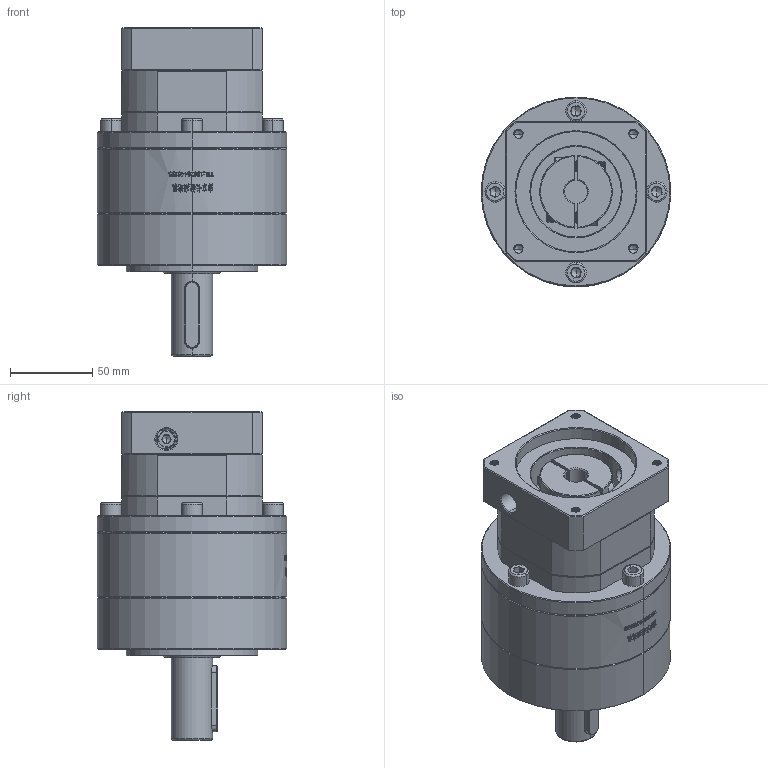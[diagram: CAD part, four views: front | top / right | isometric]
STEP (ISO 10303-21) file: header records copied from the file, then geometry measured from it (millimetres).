
FILE_DESCRIPTION (( 'STEP AP214' ), '1' );
FILE_NAME ('ZE120A-D25-L2-14-73-69.5X69.5-M6.step', '2023-03-13T06:48:57', ( '' ), ( '' ), 'SwSTEP 2.0', 'SolidWorks 2016', '' );
FILE_SCHEMA (( 'AUTOMOTIVE_DESIGN' ));
Length unit declared in the file: millimetre
Products named in the file (1): ZE120A-D25-L2-14-73-69.5X69.5-M6
Bounding box: 115 x 115 x 199 mm (x, y, z)
Volume: 1215811.9 mm3; surface area: 121743.2 mm2
Topology: 5 solids, 6 shells, 2021 faces, 5327 edges, 3397 vertices
Faces by surface type: plane 866, cylinder 500, bspline 333, cone 307, torus 15
Entity records: 116494 total; most frequent: CARTESIAN_POINT 48966, ORIENTED_EDGE 10578, DIRECTION 7912, EDGE_CURVE 5289, VERTEX_POINT 3397, LINE 2802, VECTOR 2802, AXIS2_PLACEMENT_3D 2555
